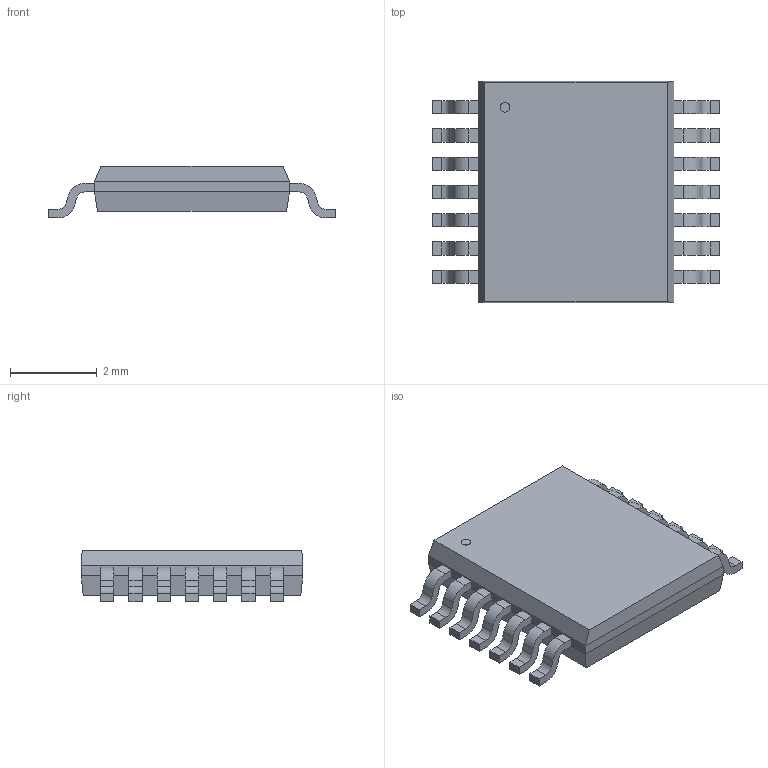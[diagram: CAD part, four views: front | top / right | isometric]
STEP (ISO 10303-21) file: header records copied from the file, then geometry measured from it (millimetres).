
FILE_DESCRIPTION(('STEP AP214'),'1');
FILE_NAME('PW14-L','2019-05-02T11:11:53',(''),(''),'','','');
FILE_SCHEMA(('AUTOMOTIVE_DESIGN'));
Length unit declared in the file: millimetre
Products named in the file (1): product
Bounding box: 6.6 x 5.11 x 1.2 mm (x, y, z)
Surface area: 84.3 mm2
Topology: 1 solids, 211 shells, 213 faces, 1067 edges, 1066 vertices
Faces by surface type: plane 156, cylinder 57
Full cylindrical faces by diameter (mm): 0.225 x1
Entity records: 11802 total; most frequent: CARTESIAN_POINT 2347, VERTEX_POINT 2130, DIRECTION 1722, ORIENTED_EDGE 1068, EDGE_CURVE 1066, LINE 840, VECTOR 840, AXIS2_PLACEMENT_3D 441
